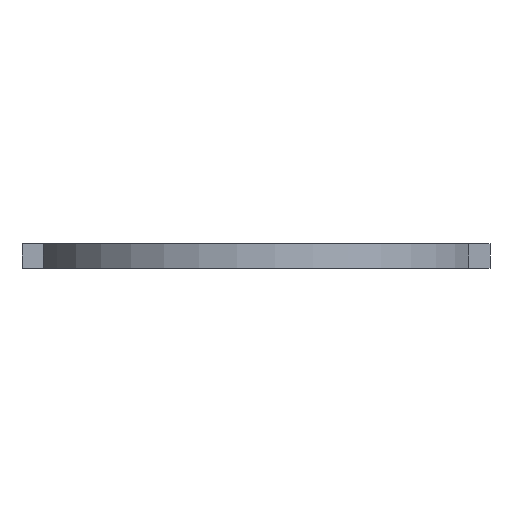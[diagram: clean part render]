
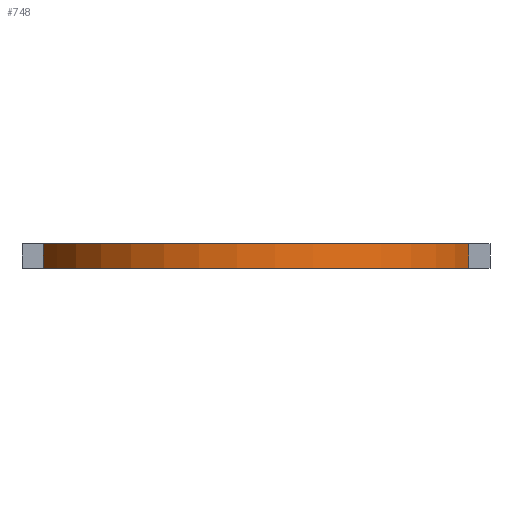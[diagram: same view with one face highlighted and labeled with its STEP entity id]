
A CAD part, left-side view. The second image highlights one B-rep face of the part: STEP entity #748.
In plain terms, the highlighted cylindrical face has radius 9 mm (diameter 18 mm), a partial arc.
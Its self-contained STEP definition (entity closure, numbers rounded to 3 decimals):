
#71 = PLANE('',#72);
#72 = AXIS2_PLACEMENT_3D('',#73,#74,#75);
#73 = CARTESIAN_POINT('',(-13.,0.,-21.));
#74 = DIRECTION('',(0.,0.,1.));
#75 = DIRECTION('',(1.,0.,-0.));
#124 = PLANE('',#125);
#125 = AXIS2_PLACEMENT_3D('',#126,#127,#128);
#126 = CARTESIAN_POINT('',(-13.,0.,-20.));
#127 = DIRECTION('',(0.,0.,1.));
#128 = DIRECTION('',(1.,0.,-0.));
#219 = EDGE_CURVE('',#220,#222,#224,.T.);
#220 = VERTEX_POINT('',#221);
#221 = CARTESIAN_POINT('',(-15.5,-8.646,-20.));
#222 = VERTEX_POINT('',#223);
#223 = CARTESIAN_POINT('',(-15.5,8.646,-20.));
#224 = SURFACE_CURVE('',#225,(#230,#241),.PCURVE_S1.);
#225 = CIRCLE('',#226,9.);
#226 = AXIS2_PLACEMENT_3D('',#227,#228,#229);
#227 = CARTESIAN_POINT('',(-13.,0.,-20.));
#228 = DIRECTION('',(-0.,0.,-1.));
#229 = DIRECTION('',(-0.278,-0.961,0.));
#230 = PCURVE('',#124,#231);
#231 = DEFINITIONAL_REPRESENTATION('',(#232),#240);
#232 = ( BOUNDED_CURVE() B_SPLINE_CURVE(2,(#233,#234,#235,#236,#237,#238
,#239),.UNSPECIFIED.,.T.,.F.) B_SPLINE_CURVE_WITH_KNOTS((1,2,2,2,2,1),(
    -2.094,0.,2.094,4.189,6.283,
8.378),.UNSPECIFIED.) CURVE() GEOMETRIC_REPRESENTATION_ITEM() 
RATIONAL_B_SPLINE_CURVE((1.,0.5,1.,0.5,1.,0.5,1.)) REPRESENTATION_ITEM(
  '') );
#233 = CARTESIAN_POINT('',(-2.5,-8.646));
#234 = CARTESIAN_POINT('',(-17.475,-4.316));
#235 = CARTESIAN_POINT('',(-6.237,6.488));
#236 = CARTESIAN_POINT('',(5.,17.292));
#237 = CARTESIAN_POINT('',(8.737,2.158));
#238 = CARTESIAN_POINT('',(12.475,-12.976));
#239 = CARTESIAN_POINT('',(-2.5,-8.646));
#240 = ( GEOMETRIC_REPRESENTATION_CONTEXT(2) 
PARAMETRIC_REPRESENTATION_CONTEXT() REPRESENTATION_CONTEXT('2D SPACE',''
  ) );
#241 = PCURVE('',#242,#247);
#242 = CYLINDRICAL_SURFACE('',#243,9.);
#243 = AXIS2_PLACEMENT_3D('',#244,#245,#246);
#244 = CARTESIAN_POINT('',(-13.,0.,-21.));
#245 = DIRECTION('',(0.,0.,1.));
#246 = DIRECTION('',(1.,0.,-0.));
#247 = DEFINITIONAL_REPRESENTATION('',(#248),#252);
#248 = LINE('',#249,#250);
#249 = CARTESIAN_POINT('',(10.714,1.));
#250 = VECTOR('',#251,1.);
#251 = DIRECTION('',(-1.,-0.));
#252 = ( GEOMETRIC_REPRESENTATION_CONTEXT(2) 
PARAMETRIC_REPRESENTATION_CONTEXT() REPRESENTATION_CONTEXT('2D SPACE',''
  ) );
#270 = PLANE('',#271);
#271 = AXIS2_PLACEMENT_3D('',#272,#273,#274);
#272 = CARTESIAN_POINT('',(-15.5,-9.5,-21.));
#273 = DIRECTION('',(1.,0.,-0.));
#274 = DIRECTION('',(0.,0.,1.));
#370 = PLANE('',#371);
#371 = AXIS2_PLACEMENT_3D('',#372,#373,#374);
#372 = CARTESIAN_POINT('',(-15.5,4.5,-21.));
#373 = DIRECTION('',(1.,0.,-0.));
#374 = DIRECTION('',(0.,0.,1.));
#554 = VERTEX_POINT('',#555);
#555 = CARTESIAN_POINT('',(-15.5,8.646,-21.));
#576 = EDGE_CURVE('',#554,#577,#579,.T.);
#577 = VERTEX_POINT('',#578);
#578 = CARTESIAN_POINT('',(-15.5,-8.646,-21.));
#579 = SURFACE_CURVE('',#580,(#585,#592),.PCURVE_S1.);
#580 = CIRCLE('',#581,9.);
#581 = AXIS2_PLACEMENT_3D('',#582,#583,#584);
#582 = CARTESIAN_POINT('',(-13.,0.,-21.));
#583 = DIRECTION('',(0.,0.,1.));
#584 = DIRECTION('',(0.278,-0.961,0.));
#585 = PCURVE('',#71,#586);
#586 = DEFINITIONAL_REPRESENTATION('',(#587),#591);
#587 = CIRCLE('',#588,9.);
#588 = AXIS2_PLACEMENT_2D('',#589,#590);
#589 = CARTESIAN_POINT('',(0.,0.));
#590 = DIRECTION('',(0.278,-0.961));
#591 = ( GEOMETRIC_REPRESENTATION_CONTEXT(2) 
PARAMETRIC_REPRESENTATION_CONTEXT() REPRESENTATION_CONTEXT('2D SPACE',''
  ) );
#592 = PCURVE('',#242,#593);
#593 = DEFINITIONAL_REPRESENTATION('',(#594),#598);
#594 = LINE('',#595,#596);
#595 = CARTESIAN_POINT('',(4.994,0.));
#596 = VECTOR('',#597,1.);
#597 = DIRECTION('',(1.,0.));
#598 = ( GEOMETRIC_REPRESENTATION_CONTEXT(2) 
PARAMETRIC_REPRESENTATION_CONTEXT() REPRESENTATION_CONTEXT('2D SPACE',''
  ) );
#748 = ADVANCED_FACE('',(#749),#242,.T.);
#749 = FACE_BOUND('',#750,.T.);
#750 = EDGE_LOOP('',(#751,#770,#771,#790));
#751 = ORIENTED_EDGE('',*,*,#752,.F.);
#752 = EDGE_CURVE('',#554,#222,#753,.T.);
#753 = SURFACE_CURVE('',#754,(#758,#764),.PCURVE_S1.);
#754 = LINE('',#755,#756);
#755 = CARTESIAN_POINT('',(-15.5,8.646,-21.));
#756 = VECTOR('',#757,1.);
#757 = DIRECTION('',(0.,0.,1.));
#758 = PCURVE('',#242,#759);
#759 = DEFINITIONAL_REPRESENTATION('',(#760),#763);
#760 = B_SPLINE_CURVE_WITH_KNOTS('',1,(#761,#762),.UNSPECIFIED.,.F.,.F.,
  (2,2),(0.,1.),.PIECEWISE_BEZIER_KNOTS.);
#761 = CARTESIAN_POINT('',(8.135,0.));
#762 = CARTESIAN_POINT('',(8.135,1.));
#763 = ( GEOMETRIC_REPRESENTATION_CONTEXT(2) 
PARAMETRIC_REPRESENTATION_CONTEXT() REPRESENTATION_CONTEXT('2D SPACE',''
  ) );
#764 = PCURVE('',#370,#765);
#765 = DEFINITIONAL_REPRESENTATION('',(#766),#769);
#766 = B_SPLINE_CURVE_WITH_KNOTS('',1,(#767,#768),.UNSPECIFIED.,.F.,.F.,
  (2,2),(0.,1.),.PIECEWISE_BEZIER_KNOTS.);
#767 = CARTESIAN_POINT('',(0.,-4.146));
#768 = CARTESIAN_POINT('',(1.,-4.146));
#769 = ( GEOMETRIC_REPRESENTATION_CONTEXT(2) 
PARAMETRIC_REPRESENTATION_CONTEXT() REPRESENTATION_CONTEXT('2D SPACE',''
  ) );
#770 = ORIENTED_EDGE('',*,*,#576,.T.);
#771 = ORIENTED_EDGE('',*,*,#772,.T.);
#772 = EDGE_CURVE('',#577,#220,#773,.T.);
#773 = SURFACE_CURVE('',#774,(#778,#784),.PCURVE_S1.);
#774 = LINE('',#775,#776);
#775 = CARTESIAN_POINT('',(-15.5,-8.646,-21.));
#776 = VECTOR('',#777,1.);
#777 = DIRECTION('',(0.,0.,1.));
#778 = PCURVE('',#242,#779);
#779 = DEFINITIONAL_REPRESENTATION('',(#780),#783);
#780 = B_SPLINE_CURVE_WITH_KNOTS('',1,(#781,#782),.UNSPECIFIED.,.F.,.F.,
  (2,2),(0.,1.),.PIECEWISE_BEZIER_KNOTS.);
#781 = CARTESIAN_POINT('',(10.714,0.));
#782 = CARTESIAN_POINT('',(10.714,1.));
#783 = ( GEOMETRIC_REPRESENTATION_CONTEXT(2) 
PARAMETRIC_REPRESENTATION_CONTEXT() REPRESENTATION_CONTEXT('2D SPACE',''
  ) );
#784 = PCURVE('',#270,#785);
#785 = DEFINITIONAL_REPRESENTATION('',(#786),#789);
#786 = B_SPLINE_CURVE_WITH_KNOTS('',1,(#787,#788),.UNSPECIFIED.,.F.,.F.,
  (2,2),(0.,1.),.PIECEWISE_BEZIER_KNOTS.);
#787 = CARTESIAN_POINT('',(0.,-0.854));
#788 = CARTESIAN_POINT('',(1.,-0.854));
#789 = ( GEOMETRIC_REPRESENTATION_CONTEXT(2) 
PARAMETRIC_REPRESENTATION_CONTEXT() REPRESENTATION_CONTEXT('2D SPACE',''
  ) );
#790 = ORIENTED_EDGE('',*,*,#219,.T.);
